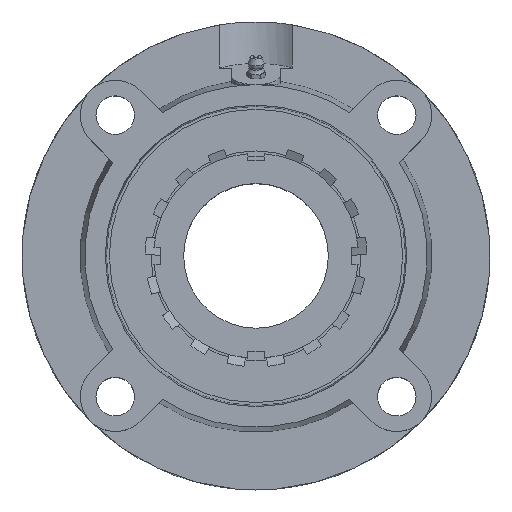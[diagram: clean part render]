
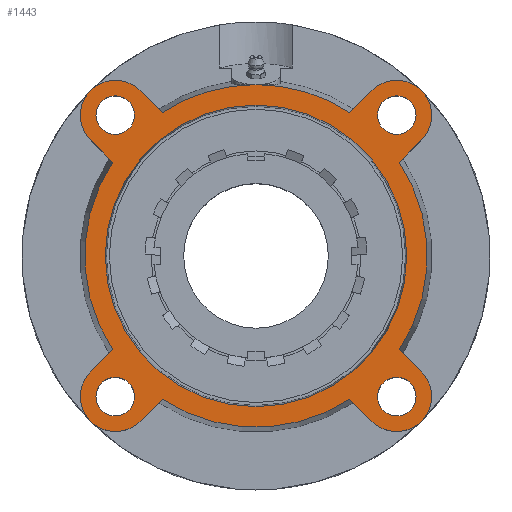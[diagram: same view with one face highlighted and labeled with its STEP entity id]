
A CAD part, top view. The second image highlights one B-rep face of the part: STEP entity #1443.
In plain terms, the highlighted planar face has unit normal (0, 0, 1).
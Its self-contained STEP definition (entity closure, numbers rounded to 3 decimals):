
#181=CARTESIAN_POINT('',(50.336,-58.336,22.));
#182=VERTEX_POINT('',#181);
#183=CARTESIAN_POINT('',(58.336,-58.336,22.));
#184=DIRECTION('',(0.0,0.0,-1.0));
#185=DIRECTION('',(1.0,0.0,0.0));
#186=AXIS2_PLACEMENT_3D('',#183,#184,#185);
#187=CIRCLE('',#186,8.0);
#188=EDGE_CURVE('',#182,#182,#187,.T.);
#209=CARTESIAN_POINT('',(-66.336,58.336,22.));
#210=VERTEX_POINT('',#209);
#211=CARTESIAN_POINT('',(-58.336,58.336,22.));
#212=DIRECTION('',(0.0,0.0,-1.0));
#213=DIRECTION('',(1.0,0.0,0.0));
#214=AXIS2_PLACEMENT_3D('',#211,#212,#213);
#215=CIRCLE('',#214,8.0);
#216=EDGE_CURVE('',#210,#210,#215,.T.);
#237=CARTESIAN_POINT('',(-66.336,-58.336,22.));
#238=VERTEX_POINT('',#237);
#239=CARTESIAN_POINT('',(-58.336,-58.336,22.));
#240=DIRECTION('',(0.0,0.0,-1.0));
#241=DIRECTION('',(1.0,0.0,0.0));
#242=AXIS2_PLACEMENT_3D('',#239,#240,#241);
#243=CIRCLE('',#242,8.0);
#244=EDGE_CURVE('',#238,#238,#243,.T.);
#265=CARTESIAN_POINT('',(50.336,58.336,22.));
#266=VERTEX_POINT('',#265);
#267=CARTESIAN_POINT('',(58.336,58.336,22.));
#268=DIRECTION('',(0.0,0.0,-1.0));
#269=DIRECTION('',(1.0,0.0,0.0));
#270=AXIS2_PLACEMENT_3D('',#267,#268,#269);
#271=CIRCLE('',#270,8.0);
#272=EDGE_CURVE('',#266,#266,#271,.T.);
#445=CARTESIAN_POINT('',(0.0,62.5,22.));
#446=VERTEX_POINT('',#445);
#447=CARTESIAN_POINT('',(0.0,0.,22.));
#448=DIRECTION('',(0.0,0.0,-1.0));
#449=DIRECTION('',(0.0,1.0,0.0));
#450=AXIS2_PLACEMENT_3D('',#447,#448,#449);
#451=CIRCLE('',#450,62.5);
#452=EDGE_CURVE('',#446,#446,#451,.T.);
#722=CARTESIAN_POINT('',(0.,71.0,22.0));
#723=VERTEX_POINT('',#722);
#845=CARTESIAN_POINT('',(-38.893,59.4,22.));
#846=VERTEX_POINT('',#845);
#860=CARTESIAN_POINT('',(0.0,0.,22.));
#861=DIRECTION('',(0.0,0.0,-1.0));
#862=DIRECTION('',(0.0,1.0,0.0));
#863=AXIS2_PLACEMENT_3D('',#860,#861,#862);
#864=CIRCLE('',#863,71.0);
#865=EDGE_CURVE('',#846,#723,#864,.T.);
#878=CARTESIAN_POINT('',(38.893,59.4,22.));
#879=VERTEX_POINT('',#878);
#880=CARTESIAN_POINT('',(0.0,0.,22.));
#881=DIRECTION('',(0.0,0.0,-1.0));
#882=DIRECTION('',(0.0,1.0,0.0));
#883=AXIS2_PLACEMENT_3D('',#880,#881,#882);
#884=CIRCLE('',#883,71.0);
#885=EDGE_CURVE('',#723,#879,#884,.T.);
#909=CARTESIAN_POINT('',(-59.4,38.893,22.));
#910=VERTEX_POINT('',#909);
#926=CARTESIAN_POINT('',(-68.589,48.083,22.0));
#927=VERTEX_POINT('',#926);
#928=CARTESIAN_POINT('',(-59.4,38.893,22.0));
#929=DIRECTION('',(-0.707,0.707,0.0));
#930=VECTOR('',#929,12.996);
#931=LINE('',#928,#930);
#932=EDGE_CURVE('',#910,#927,#931,.T.);
#956=CARTESIAN_POINT('',(-38.893,-59.4,22.));
#957=VERTEX_POINT('',#956);
#973=CARTESIAN_POINT('',(-48.083,-68.589,22.));
#974=VERTEX_POINT('',#973);
#975=CARTESIAN_POINT('',(-38.893,-59.4,22.));
#976=DIRECTION('',(-0.707,-0.707,0.0));
#977=VECTOR('',#976,12.996);
#978=LINE('',#975,#977);
#979=EDGE_CURVE('',#957,#974,#978,.T.);
#1003=CARTESIAN_POINT('',(59.4,-38.893,22.));
#1004=VERTEX_POINT('',#1003);
#1020=CARTESIAN_POINT('',(68.589,-48.083,22.));
#1021=VERTEX_POINT('',#1020);
#1022=CARTESIAN_POINT('',(59.4,-38.893,22.));
#1023=DIRECTION('',(0.707,-0.707,0.0));
#1024=VECTOR('',#1023,12.996);
#1025=LINE('',#1022,#1024);
#1026=EDGE_CURVE('',#1004,#1021,#1025,.T.);
#1051=CARTESIAN_POINT('',(48.083,68.589,22.0));
#1052=VERTEX_POINT('',#1051);
#1053=CARTESIAN_POINT('',(38.893,59.4,22.0));
#1054=DIRECTION('',(0.707,0.707,0.0));
#1055=VECTOR('',#1054,12.996);
#1056=LINE('',#1053,#1055);
#1057=EDGE_CURVE('',#879,#1052,#1056,.T.);
#1076=CARTESIAN_POINT('',(38.893,-59.4,22.));
#1077=VERTEX_POINT('',#1076);
#1099=CARTESIAN_POINT('',(48.083,-68.589,22.));
#1100=VERTEX_POINT('',#1099);
#1107=CARTESIAN_POINT('',(48.083,-68.589,22.));
#1108=DIRECTION('',(-0.707,0.707,0.0));
#1109=VECTOR('',#1108,12.996);
#1110=LINE('',#1107,#1109);
#1111=EDGE_CURVE('',#1100,#1077,#1110,.T.);
#1121=CARTESIAN_POINT('',(-68.589,-48.083,22.));
#1122=VERTEX_POINT('',#1121);
#1123=CARTESIAN_POINT('',(-58.336,-58.336,22.));
#1124=DIRECTION('',(0.0,0.0,-1.0));
#1125=DIRECTION('',(-0.642,0.767,0.0));
#1126=AXIS2_PLACEMENT_3D('',#1123,#1124,#1125);
#1127=CIRCLE('',#1126,14.5);
#1128=EDGE_CURVE('',#974,#1122,#1127,.T.);
#1163=CARTESIAN_POINT('',(-59.4,-38.893,22.));
#1164=VERTEX_POINT('',#1163);
#1185=CARTESIAN_POINT('',(-68.589,-48.083,22.));
#1186=DIRECTION('',(0.707,0.707,0.0));
#1187=VECTOR('',#1186,12.996);
#1188=LINE('',#1185,#1187);
#1189=EDGE_CURVE('',#1122,#1164,#1188,.T.);
#1199=CARTESIAN_POINT('',(-48.083,68.589,22.0));
#1200=VERTEX_POINT('',#1199);
#1201=CARTESIAN_POINT('',(-58.336,58.336,22.));
#1202=DIRECTION('',(0.0,0.0,-1.0));
#1203=DIRECTION('',(0.767,0.642,0.0));
#1204=AXIS2_PLACEMENT_3D('',#1201,#1202,#1203);
#1205=CIRCLE('',#1204,14.5);
#1206=EDGE_CURVE('',#927,#1200,#1205,.T.);
#1234=CARTESIAN_POINT('',(-48.083,68.589,22.0));
#1235=DIRECTION('',(0.707,-0.707,0.0));
#1236=VECTOR('',#1235,12.996);
#1237=LINE('',#1234,#1236);
#1238=EDGE_CURVE('',#1200,#846,#1237,.T.);
#1248=CARTESIAN_POINT('',(68.589,48.083,22.0));
#1249=VERTEX_POINT('',#1248);
#1250=CARTESIAN_POINT('',(58.336,58.336,22.));
#1251=DIRECTION('',(0.0,0.0,-1.0));
#1252=DIRECTION('',(0.642,-0.767,0.0));
#1253=AXIS2_PLACEMENT_3D('',#1250,#1251,#1252);
#1254=CIRCLE('',#1253,14.5);
#1255=EDGE_CURVE('',#1052,#1249,#1254,.T.);
#1284=CARTESIAN_POINT('',(59.4,38.893,22.));
#1285=VERTEX_POINT('',#1284);
#1306=CARTESIAN_POINT('',(68.589,48.083,22.0));
#1307=DIRECTION('',(-0.707,-0.707,0.0));
#1308=VECTOR('',#1307,12.996);
#1309=LINE('',#1306,#1308);
#1310=EDGE_CURVE('',#1249,#1285,#1309,.T.);
#1320=CARTESIAN_POINT('',(58.336,-58.336,22.));
#1321=DIRECTION('',(0.0,0.0,-1.0));
#1322=DIRECTION('',(-0.767,-0.642,0.0));
#1323=AXIS2_PLACEMENT_3D('',#1320,#1321,#1322);
#1324=CIRCLE('',#1323,14.5);
#1325=EDGE_CURVE('',#1021,#1100,#1324,.T.);
#1386=CARTESIAN_POINT('',(0.0,35.5,22.0));
#1387=DIRECTION('',(0.0,0.0,1.0));
#1388=DIRECTION('',(1.0,0.0,0.0));
#1389=AXIS2_PLACEMENT_3D('',#1386,#1387,#1388);
#1390=PLANE('',#1389);
#1391=CARTESIAN_POINT('',(0.0,0.,22.));
#1392=DIRECTION('',(0.0,0.0,-1.0));
#1393=DIRECTION('',(0.0,1.0,0.0));
#1394=AXIS2_PLACEMENT_3D('',#1391,#1392,#1393);
#1395=CIRCLE('',#1394,71.0);
#1396=EDGE_CURVE('',#1077,#957,#1395,.T.);
#1397=ORIENTED_EDGE('',*,*,#1396,.F.);
#1398=ORIENTED_EDGE('',*,*,#1111,.F.);
#1399=ORIENTED_EDGE('',*,*,#1325,.F.);
#1400=ORIENTED_EDGE('',*,*,#1026,.F.);
#1401=CARTESIAN_POINT('',(0.0,0.,22.));
#1402=DIRECTION('',(0.0,0.0,-1.0));
#1403=DIRECTION('',(0.0,1.0,0.0));
#1404=AXIS2_PLACEMENT_3D('',#1401,#1402,#1403);
#1405=CIRCLE('',#1404,71.0);
#1406=EDGE_CURVE('',#1285,#1004,#1405,.T.);
#1407=ORIENTED_EDGE('',*,*,#1406,.F.);
#1408=ORIENTED_EDGE('',*,*,#1310,.F.);
#1409=ORIENTED_EDGE('',*,*,#1255,.F.);
#1410=ORIENTED_EDGE('',*,*,#1057,.F.);
#1411=ORIENTED_EDGE('',*,*,#885,.F.);
#1412=ORIENTED_EDGE('',*,*,#865,.F.);
#1413=ORIENTED_EDGE('',*,*,#1238,.F.);
#1414=ORIENTED_EDGE('',*,*,#1206,.F.);
#1415=ORIENTED_EDGE('',*,*,#932,.F.);
#1416=CARTESIAN_POINT('',(0.0,0.,22.));
#1417=DIRECTION('',(0.0,0.0,-1.0));
#1418=DIRECTION('',(0.0,1.0,0.0));
#1419=AXIS2_PLACEMENT_3D('',#1416,#1417,#1418);
#1420=CIRCLE('',#1419,71.0);
#1421=EDGE_CURVE('',#1164,#910,#1420,.T.);
#1422=ORIENTED_EDGE('',*,*,#1421,.F.);
#1423=ORIENTED_EDGE('',*,*,#1189,.F.);
#1424=ORIENTED_EDGE('',*,*,#1128,.F.);
#1425=ORIENTED_EDGE('',*,*,#979,.F.);
#1426=EDGE_LOOP('',(#1397,#1398,#1399,#1400,#1407,#1408,#1409,#1410,#1411,#1412,#1413,#1414,#1415,#1422,#1423,#1424,#1425));
#1427=FACE_OUTER_BOUND('',#1426,.T.);
#1428=ORIENTED_EDGE('',*,*,#188,.T.);
#1429=EDGE_LOOP('',(#1428));
#1430=FACE_BOUND('',#1429,.T.);
#1431=ORIENTED_EDGE('',*,*,#216,.T.);
#1432=EDGE_LOOP('',(#1431));
#1433=FACE_BOUND('',#1432,.T.);
#1434=ORIENTED_EDGE('',*,*,#244,.T.);
#1435=EDGE_LOOP('',(#1434));
#1436=FACE_BOUND('',#1435,.T.);
#1437=ORIENTED_EDGE('',*,*,#272,.T.);
#1438=EDGE_LOOP('',(#1437));
#1439=FACE_BOUND('',#1438,.T.);
#1440=ORIENTED_EDGE('',*,*,#452,.T.);
#1441=EDGE_LOOP('',(#1440));
#1442=FACE_BOUND('',#1441,.T.);
#1443=ADVANCED_FACE('',(#1427,#1430,#1433,#1436,#1439,#1442),#1390,.T.);
